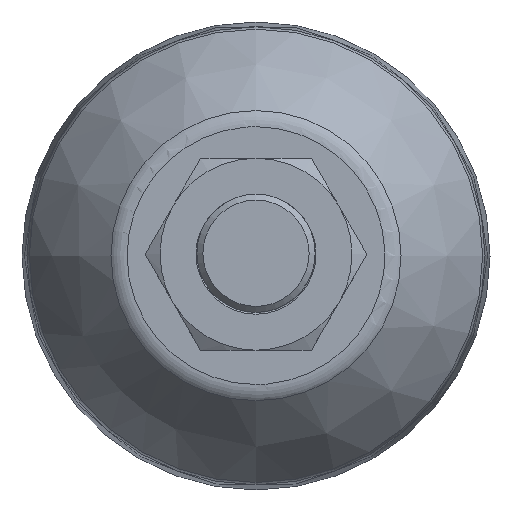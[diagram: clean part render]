
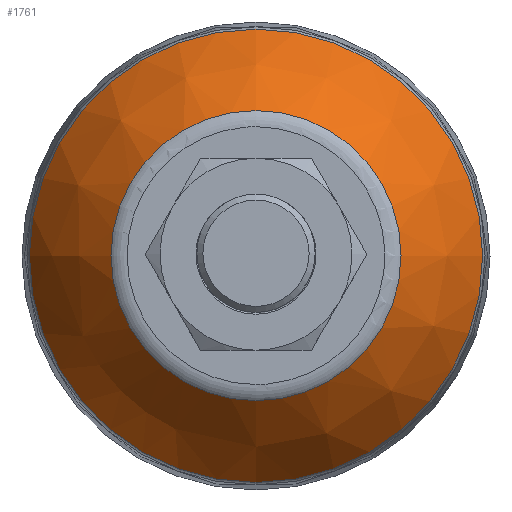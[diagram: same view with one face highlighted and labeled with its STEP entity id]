
A CAD part, top view. The second image highlights one B-rep face of the part: STEP entity #1761.
In plain terms, the highlighted free-form (B-spline) face has degree [2, 2] with [3, 9] control points.
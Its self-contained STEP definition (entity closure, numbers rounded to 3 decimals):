
#66=(
BOUNDED_SURFACE()
B_SPLINE_SURFACE(2,2,((#4006,#4007,#4008,#4009,#4010,#4011,#4012,#4013,
#4014),(#4015,#4016,#4017,#4018,#4019,#4020,#4021,#4022,#4023),(#4024,#4025,
#4026,#4027,#4028,#4029,#4030,#4031,#4032)),.UNSPECIFIED.,.F.,.T.,.F.)
B_SPLINE_SURFACE_WITH_KNOTS((3,3),(3,2,2,2,3),(0.449,0.833),
(-3.142,-1.571,0.,1.571,3.142),
 .UNSPECIFIED.)
GEOMETRIC_REPRESENTATION_ITEM()
RATIONAL_B_SPLINE_SURFACE(((1.,0.707,1.,0.707,1.,
0.707,1.,0.707,1.),(0.982,0.694,
0.982,0.694,0.982,0.694,
0.982,0.694,0.982),(1.,0.707,
1.,0.707,1.,0.707,1.,0.707,1.)))
REPRESENTATION_ITEM('')
SURFACE()
);
#348=FACE_OUTER_BOUND('',#477,.T.);
#477=EDGE_LOOP('',(#1592,#1593,#1594,#1595));
#708=CIRCLE('',#2016,12.088);
#709=CIRCLE('',#2017,29.826);
#710=CIRCLE('',#2018,18.889);
#876=VERTEX_POINT('',#4033);
#877=VERTEX_POINT('',#4035);
#1118=EDGE_CURVE('',#876,#876,#708,.T.);
#1119=EDGE_CURVE('',#876,#877,#709,.T.);
#1120=EDGE_CURVE('',#877,#877,#710,.T.);
#1592=ORIENTED_EDGE('',*,*,#1118,.T.);
#1593=ORIENTED_EDGE('',*,*,#1119,.T.);
#1594=ORIENTED_EDGE('',*,*,#1120,.T.);
#1595=ORIENTED_EDGE('',*,*,#1119,.F.);
#1761=ADVANCED_FACE('',(#348),#66,.F.);
#2016=AXIS2_PLACEMENT_3D('',#4034,#2508,#2509);
#2017=AXIS2_PLACEMENT_3D('',#4036,#2510,#2511);
#2018=AXIS2_PLACEMENT_3D('',#4037,#2512,#2513);
#2508=DIRECTION('center_axis',(0.,0.,-1.));
#2509=DIRECTION('ref_axis',(1.,0.,0.));
#2510=DIRECTION('center_axis',(0.,-1.,0.));
#2511=DIRECTION('ref_axis',(-1.,0.,0.));
#2512=DIRECTION('center_axis',(0.,0.,1.));
#2513=DIRECTION('ref_axis',(1.,0.,0.));
#4006=CARTESIAN_POINT('Ctrl Pts',(-22.359,4.203,22.88));
#4007=CARTESIAN_POINT('Ctrl Pts',(-22.359,-14.686,22.88));
#4008=CARTESIAN_POINT('Ctrl Pts',(-3.47,-14.686,22.88));
#4009=CARTESIAN_POINT('Ctrl Pts',(15.419,-14.686,22.88));
#4010=CARTESIAN_POINT('Ctrl Pts',(15.419,4.203,22.88));
#4011=CARTESIAN_POINT('Ctrl Pts',(15.419,23.092,22.88));
#4012=CARTESIAN_POINT('Ctrl Pts',(-3.47,23.092,22.88));
#4013=CARTESIAN_POINT('Ctrl Pts',(-22.359,23.092,22.88));
#4014=CARTESIAN_POINT('Ctrl Pts',(-22.359,4.203,22.88));
#4015=CARTESIAN_POINT('Ctrl Pts',(-19.845,4.203,28.103));
#4016=CARTESIAN_POINT('Ctrl Pts',(-19.845,-12.172,28.103));
#4017=CARTESIAN_POINT('Ctrl Pts',(-3.47,-12.172,28.103));
#4018=CARTESIAN_POINT('Ctrl Pts',(12.905,-12.172,28.103));
#4019=CARTESIAN_POINT('Ctrl Pts',(12.905,4.203,28.103));
#4020=CARTESIAN_POINT('Ctrl Pts',(12.905,20.578,28.103));
#4021=CARTESIAN_POINT('Ctrl Pts',(-3.47,20.578,28.103));
#4022=CARTESIAN_POINT('Ctrl Pts',(-19.845,20.578,28.103));
#4023=CARTESIAN_POINT('Ctrl Pts',(-19.845,4.203,28.103));
#4024=CARTESIAN_POINT('Ctrl Pts',(-15.557,4.203,32.004));
#4025=CARTESIAN_POINT('Ctrl Pts',(-15.557,-7.885,32.004));
#4026=CARTESIAN_POINT('Ctrl Pts',(-3.47,-7.885,32.004));
#4027=CARTESIAN_POINT('Ctrl Pts',(8.618,-7.885,32.004));
#4028=CARTESIAN_POINT('Ctrl Pts',(8.618,4.203,32.004));
#4029=CARTESIAN_POINT('Ctrl Pts',(8.618,16.291,32.004));
#4030=CARTESIAN_POINT('Ctrl Pts',(-3.47,16.291,32.004));
#4031=CARTESIAN_POINT('Ctrl Pts',(-15.557,16.291,32.004));
#4032=CARTESIAN_POINT('Ctrl Pts',(-15.557,4.203,32.004));
#4033=CARTESIAN_POINT('',(-15.557,4.203,32.004));
#4034=CARTESIAN_POINT('Origin',(-3.47,4.203,32.004));
#4035=CARTESIAN_POINT('',(-22.359,4.203,22.88));
#4036=CARTESIAN_POINT('Origin',(4.517,4.203,9.944));
#4037=CARTESIAN_POINT('Origin',(-3.47,4.203,22.88));
